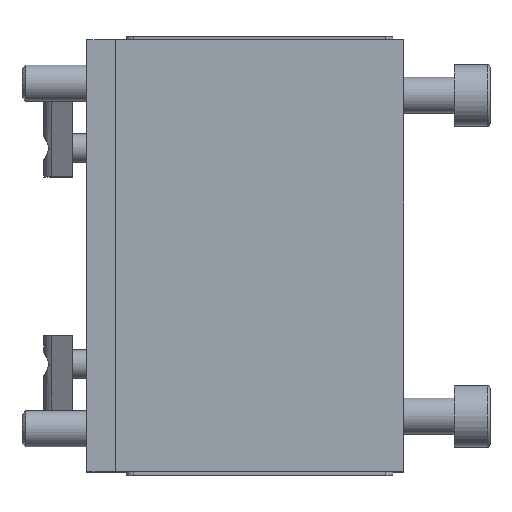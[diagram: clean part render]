
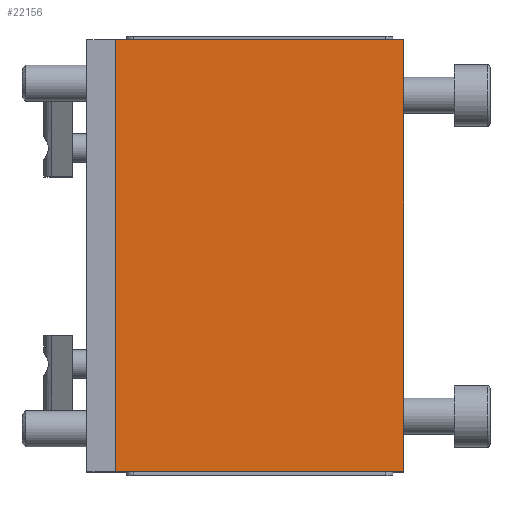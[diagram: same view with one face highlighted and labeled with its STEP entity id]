
A CAD part, top view. The second image highlights one B-rep face of the part: STEP entity #22156.
In plain terms, the highlighted planar face has unit normal (0, 0, 1).
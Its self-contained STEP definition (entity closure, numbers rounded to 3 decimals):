
#146=DIRECTION('',(0.,1.,0.));
#147=VECTOR('',#146,60.);
#148=CARTESIAN_POINT('',(44.,-30.,30.));
#149=LINE('',#148,#147);
#318=DIRECTION('',(1.,0.,0.));
#319=VECTOR('',#318,40.);
#320=CARTESIAN_POINT('',(4.,-30.,30.));
#321=LINE('',#320,#319);
#624=DIRECTION('',(1.,0.,0.));
#625=VECTOR('',#624,40.);
#626=CARTESIAN_POINT('',(4.,30.,30.));
#627=LINE('',#626,#625);
#9173=DIRECTION('',(0.,1.,0.));
#9174=VECTOR('',#9173,60.);
#9175=CARTESIAN_POINT('',(4.,-30.,30.));
#9176=LINE('',#9175,#9174);
#11290=CARTESIAN_POINT('',(44.,-30.,30.));
#11292=VERTEX_POINT('',#11290);
#11294=CARTESIAN_POINT('',(4.,-30.,30.));
#11295=VERTEX_POINT('',#11294);
#11296=CARTESIAN_POINT('',(44.,30.,30.));
#11298=VERTEX_POINT('',#11296);
#11300=CARTESIAN_POINT('',(4.,30.,30.));
#11301=VERTEX_POINT('',#11300);
#22145=CARTESIAN_POINT('',(4.,-30.,30.));
#22146=DIRECTION('',(0.,0.,1.));
#22147=DIRECTION('',(1.,0.,0.));
#22148=AXIS2_PLACEMENT_3D('',#22145,#22146,#22147);
#22149=PLANE('',#22148);
#22150=ORIENTED_EDGE('',*,*,#13178,.F.);
#22151=ORIENTED_EDGE('',*,*,#13381,.T.);
#22152=ORIENTED_EDGE('',*,*,#13291,.T.);
#22153=ORIENTED_EDGE('',*,*,#13073,.F.);
#22154=EDGE_LOOP('',(#22150,#22151,#22152,#22153));
#22155=FACE_OUTER_BOUND('',#22154,.F.);
#22156=ADVANCED_FACE('',(#22155),#22149,.T.);
#13073=EDGE_CURVE('',#11292,#11298,#149,.T.);
#13178=EDGE_CURVE('',#11295,#11292,#321,.T.);
#13291=EDGE_CURVE('',#11301,#11298,#627,.T.);
#13381=EDGE_CURVE('',#11295,#11301,#9176,.T.);
